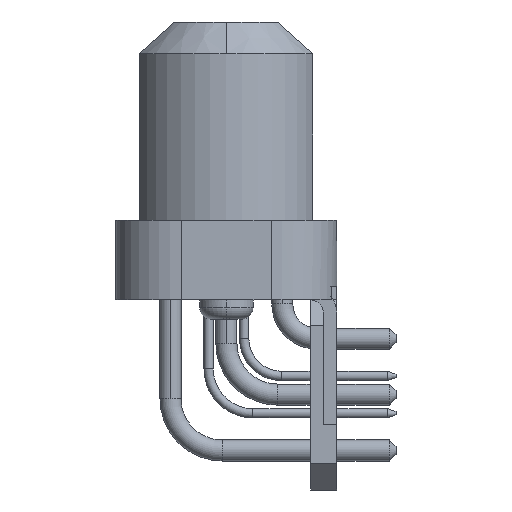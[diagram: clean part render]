
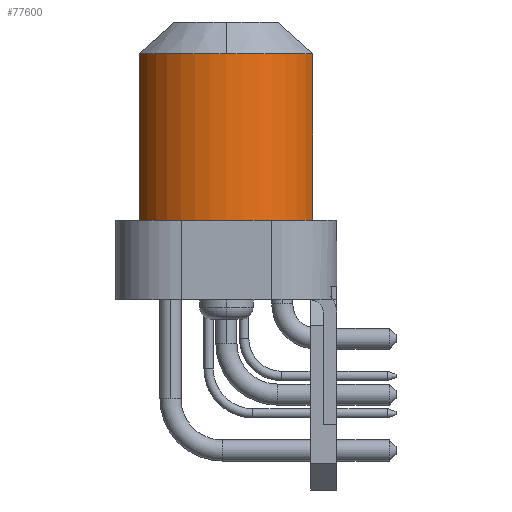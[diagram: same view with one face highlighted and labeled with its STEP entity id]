
A CAD part, left-side view. The second image highlights one B-rep face of the part: STEP entity #77600.
In plain terms, the highlighted cylindrical face has radius 7.02 mm (diameter 14.04 mm), a partial arc.
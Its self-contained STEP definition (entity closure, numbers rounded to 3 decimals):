
#3040 = AXIS2_PLACEMENT_3D ( 'NONE', #143584, #57932, #35940 ) ;
#13973 = EDGE_LOOP ( 'NONE', ( #106678, #91734, #83923, #110215, #130645 ) ) ;
#15944 = CIRCLE ( 'NONE', #86116, 7.02 ) ;
#16166 = EDGE_CURVE ( 'NONE', #127430, #56241, #15944, .T. ) ;
#27795 = CARTESIAN_POINT ( 'NONE',  ( -22.88, 6.575, -12.69 ) ) ;
#28822 = DIRECTION ( 'NONE',  ( 0., 0., 1. ) ) ;
#33934 = EDGE_CURVE ( 'NONE', #87581, #144076, #101299, .T. ) ;
#35940 = DIRECTION ( 'NONE',  ( 1., 0., 0. ) ) ;
#37916 = DIRECTION ( 'NONE',  ( 0., 0., -1. ) ) ;
#43299 = VECTOR ( 'NONE', #109354, 1000. ) ;
#45030 = CARTESIAN_POINT ( 'NONE',  ( -22.88, -6.575, -12.69 ) ) ;
#47090 = AXIS2_PLACEMENT_3D ( 'NONE', #97630, #37916, #85819 ) ;
#49572 = CIRCLE ( 'NONE', #47090, 7.02 ) ;
#55511 = VECTOR ( 'NONE', #28822, 1000. ) ;
#56241 = VERTEX_POINT ( 'NONE', #27795 ) ;
#57932 = DIRECTION ( 'NONE',  ( 0., 0., 1. ) ) ;
#61383 = LINE ( 'NONE', #110138, #43299 ) ;
#63087 = DIRECTION ( 'NONE',  ( -0.35, -0.937, 0. ) ) ;
#63466 = CARTESIAN_POINT ( 'NONE',  ( -27.44, 0., 0. ) ) ;
#77600 = ADVANCED_FACE ( 'NONE', ( #116915 ), #119237, .T. ) ;
#83923 = ORIENTED_EDGE ( 'NONE', *, *, #110726, .T. ) ;
#85819 = DIRECTION ( 'NONE',  ( -0.35, -0.937, 0. ) ) ;
#85884 = DIRECTION ( 'NONE',  ( 0., 0., -1. ) ) ;
#86116 = AXIS2_PLACEMENT_3D ( 'NONE', #96735, #120331, #143139 ) ;
#87581 = VERTEX_POINT ( 'NONE', #136985 ) ;
#88506 = CARTESIAN_POINT ( 'NONE',  ( -22.88, 6.575, -18.71 ) ) ;
#91734 = ORIENTED_EDGE ( 'NONE', *, *, #33934, .T. ) ;
#96735 = CARTESIAN_POINT ( 'NONE',  ( -20.42, 0., -12.69 ) ) ;
#97630 = CARTESIAN_POINT ( 'NONE',  ( -20.42, 0., 0. ) ) ;
#99236 = CARTESIAN_POINT ( 'NONE',  ( -20.42, 0., 0. ) ) ;
#101299 = CIRCLE ( 'NONE', #138996, 7.02 ) ;
#105519 = VERTEX_POINT ( 'NONE', #125104 ) ;
#106678 = ORIENTED_EDGE ( 'NONE', *, *, #120294, .T. ) ;
#109354 = DIRECTION ( 'NONE',  ( 0., 0., 1. ) ) ;
#110138 = CARTESIAN_POINT ( 'NONE',  ( -22.88, -6.575, -16.024 ) ) ;
#110215 = ORIENTED_EDGE ( 'NONE', *, *, #122375, .F. ) ;
#110726 = EDGE_CURVE ( 'NONE', #144076, #105519, #49572, .T. ) ;
#116915 = FACE_OUTER_BOUND ( 'NONE', #13973, .T. ) ;
#119237 = CYLINDRICAL_SURFACE ( 'NONE', #3040, 7.02 ) ;
#120294 = EDGE_CURVE ( 'NONE', #127430, #87581, #61383, .T. ) ;
#120331 = DIRECTION ( 'NONE',  ( 0., 0., -1. ) ) ;
#122375 = EDGE_CURVE ( 'NONE', #56241, #105519, #138794, .T. ) ;
#125104 = CARTESIAN_POINT ( 'NONE',  ( -22.88, 6.575, 0. ) ) ;
#127430 = VERTEX_POINT ( 'NONE', #45030 ) ;
#130645 = ORIENTED_EDGE ( 'NONE', *, *, #16166, .F. ) ;
#136985 = CARTESIAN_POINT ( 'NONE',  ( -22.88, -6.575, 0. ) ) ;
#138794 = LINE ( 'NONE', #88506, #55511 ) ;
#138996 = AXIS2_PLACEMENT_3D ( 'NONE', #99236, #85884, #63087 ) ;
#143139 = DIRECTION ( 'NONE',  ( 1., 0., 0. ) ) ;
#143584 = CARTESIAN_POINT ( 'NONE',  ( -20.42, 0., -18.71 ) ) ;
#144076 = VERTEX_POINT ( 'NONE', #63466 ) ;
